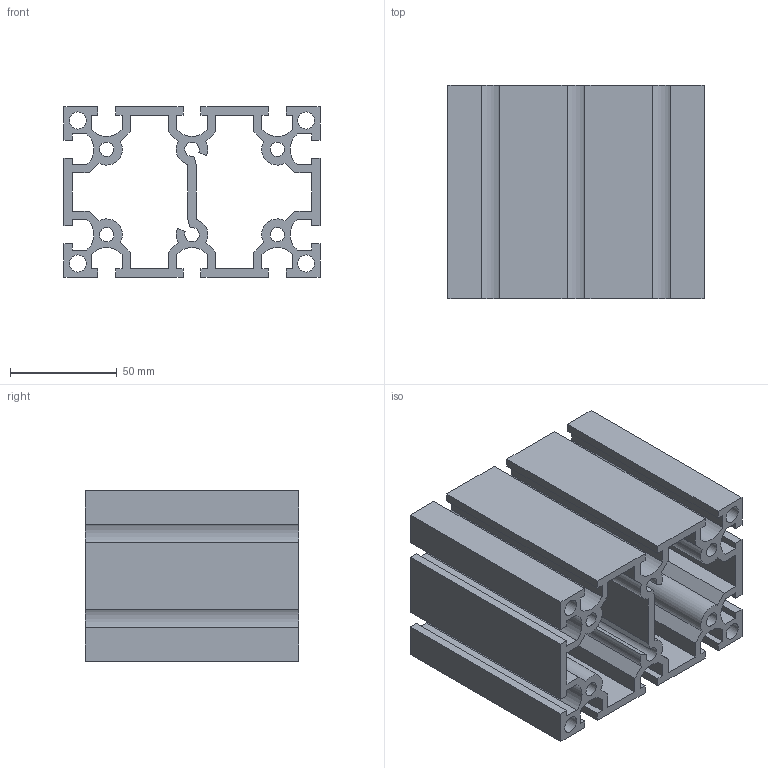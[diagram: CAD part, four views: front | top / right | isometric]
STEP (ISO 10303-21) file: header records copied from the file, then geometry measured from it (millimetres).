
FILE_DESCRIPTION(/* description */ ('Unknown'),/* implementation_level */ '2;1');
FILE_NAME(/* name */ 'NM80120',/* time_stamp */ '2026-08-31T11:43:55+08:00',/* author */ ('Unknown'),/* organization */ ('Unknown'),/* preprocessor_version */ 'ST-DEVELOPER v16.7',/* originating_system */ 'DEX',/* authorisation */ $);
FILE_SCHEMA (('AUTOMOTIVE_DESIGN {1 0 10303 214 3 1 1}'));
Length unit declared in the file: millimetre
Products named in the file (1): 80120-
Bounding box: 120 x 100 x 80 mm (x, y, z)
Volume: 272980.7 mm3; surface area: 149614.5 mm2
Topology: 1 solids, 1 shells, 140 faces, 414 edges, 276 vertices
Faces by surface type: plane 112, cylinder 28
Full cylindrical faces by diameter (mm): 6.8 x4, 8 x4
Entity records: 4664 total; most frequent: CARTESIAN_POINT 823, ORIENTED_EDGE 812, DIRECTION 744, EDGE_CURVE 406, LINE 350, VECTOR 350, VERTEX_POINT 276, AXIS2_PLACEMENT_3D 197
